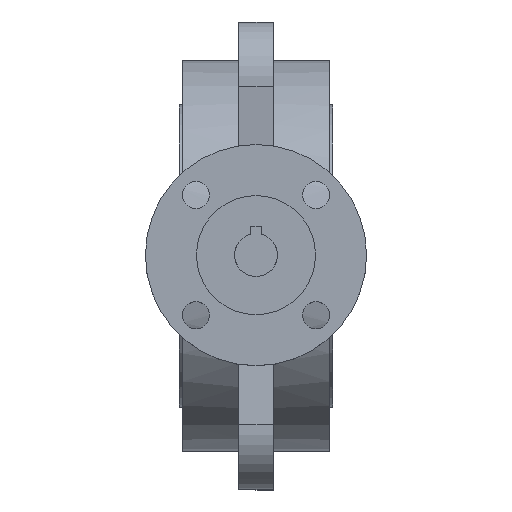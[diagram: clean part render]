
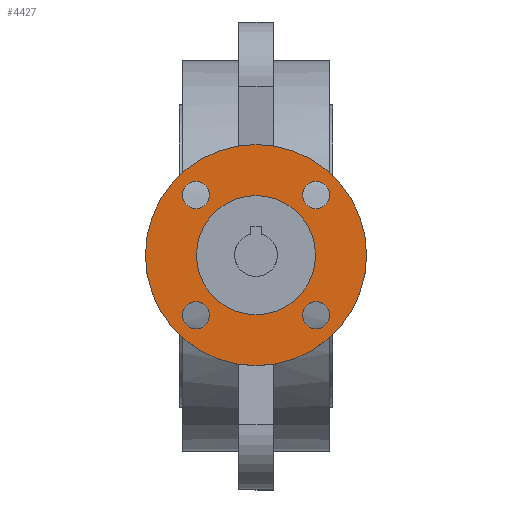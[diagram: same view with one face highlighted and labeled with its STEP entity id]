
A CAD part, top view. The second image highlights one B-rep face of the part: STEP entity #4427.
In plain terms, the highlighted planar face has unit normal (0, 0, 1).
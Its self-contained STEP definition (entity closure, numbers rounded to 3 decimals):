
#4427=ADVANCED_FACE('',(#9020,#9022,#9024,#9026,#9028,#9030),#9032,.T.);
#9020=FACE_BOUND('',#9021,.T.);
#9021=EDGE_LOOP('',(#12766));
#9022=FACE_BOUND('',#9023,.T.);
#9023=EDGE_LOOP('',(#12767));
#9024=FACE_BOUND('',#9025,.T.);
#9025=EDGE_LOOP('',(#12768));
#9026=FACE_BOUND('',#9027,.T.);
#9027=EDGE_LOOP('',(#12769));
#9028=FACE_BOUND('',#9029,.T.);
#9029=EDGE_LOOP('',(#12770));
#9030=FACE_BOUND('',#9031,.T.);
#9031=EDGE_LOOP('',(#12771));
#9032=PLANE('',#9033);
#9033=AXIS2_PLACEMENT_3D('',#9034,#9035,#9036);
#9034=CARTESIAN_POINT('',(0.,0.,150.));
#9035=DIRECTION('',(0.,0.,1.));
#9036=DIRECTION('',(0.,1.,0.));
#12766=ORIENTED_EDGE('',*,*,#14718,.F.);
#12767=ORIENTED_EDGE('',*,*,#14719,.T.);
#12768=ORIENTED_EDGE('',*,*,#14720,.T.);
#12769=ORIENTED_EDGE('',*,*,#14721,.T.);
#12770=ORIENTED_EDGE('',*,*,#14830,.T.);
#12771=ORIENTED_EDGE('',*,*,#14722,.T.);
#14718=EDGE_CURVE('',#17373,#17373,#17374,.T.);
#14719=EDGE_CURVE('',#17375,#17375,#17376,.F.);
#14720=EDGE_CURVE('',#17377,#17377,#17378,.F.);
#14721=EDGE_CURVE('',#17379,#17379,#17380,.F.);
#14722=EDGE_CURVE('',#17381,#17381,#17382,.F.);
#14830=EDGE_CURVE('',#17596,#17596,#17597,.T.);
#17373=VERTEX_POINT('',#24226);
#17374=CIRCLE('',#24227,32.5);
#17375=VERTEX_POINT('',#24231);
#17376=CIRCLE('',#24232,4.);
#17377=VERTEX_POINT('',#24236);
#17378=CIRCLE('',#24237,4.);
#17379=VERTEX_POINT('',#24241);
#17380=CIRCLE('',#24242,4.);
#17381=VERTEX_POINT('',#24246);
#17382=CIRCLE('',#24247,4.);
#17596=VERTEX_POINT('',#24752);
#17597=CIRCLE('',#24753,17.5);
#24226=CARTESIAN_POINT('',(0.,32.5,150.));
#24227=AXIS2_PLACEMENT_3D('',#24228,#24229,#24230);
#24228=CARTESIAN_POINT('',(0.,0.,150.));
#24229=DIRECTION('',(0.,0.,-1.));
#24230=DIRECTION('',(0.,1.,0.));
#24231=CARTESIAN_POINT('',(-13.678,-17.678,150.));
#24232=AXIS2_PLACEMENT_3D('',#24233,#24234,#24235);
#24233=CARTESIAN_POINT('',(-17.678,-17.678,150.));
#24234=DIRECTION('',(0.,0.,1.));
#24235=DIRECTION('',(1.,0.,0.));
#24236=CARTESIAN_POINT('',(-17.678,13.678,150.));
#24237=AXIS2_PLACEMENT_3D('',#24238,#24239,#24240);
#24238=CARTESIAN_POINT('',(-17.678,17.678,150.));
#24239=DIRECTION('',(0.,0.,1.));
#24240=DIRECTION('',(0.,-1.,0.));
#24241=CARTESIAN_POINT('',(13.678,17.678,150.));
#24242=AXIS2_PLACEMENT_3D('',#24243,#24244,#24245);
#24243=CARTESIAN_POINT('',(17.678,17.678,150.));
#24244=DIRECTION('',(0.,0.,1.));
#24245=DIRECTION('',(-1.,0.,0.));
#24246=CARTESIAN_POINT('',(17.678,-13.678,150.));
#24247=AXIS2_PLACEMENT_3D('',#24248,#24249,#24250);
#24248=CARTESIAN_POINT('',(17.678,-17.678,150.));
#24249=DIRECTION('',(0.,0.,1.));
#24250=DIRECTION('',(0.,1.,0.));
#24752=CARTESIAN_POINT('',(0.,17.5,150.));
#24753=AXIS2_PLACEMENT_3D('',#24754,#24755,#24756);
#24754=CARTESIAN_POINT('',(0.,0.,150.));
#24755=DIRECTION('',(0.,0.,-1.));
#24756=DIRECTION('',(0.,1.,0.));
